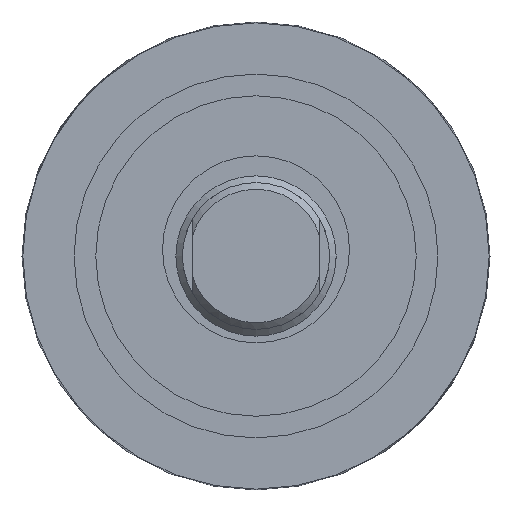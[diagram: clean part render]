
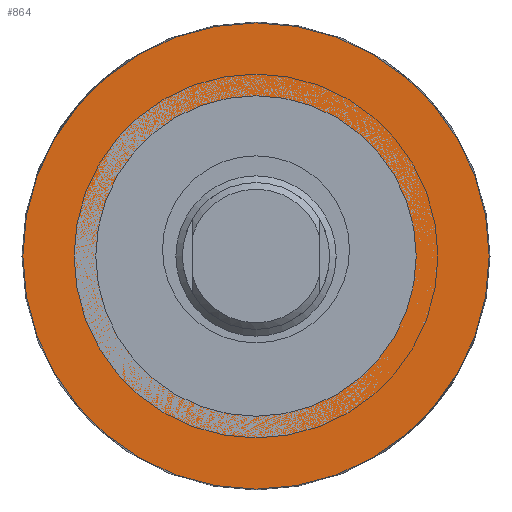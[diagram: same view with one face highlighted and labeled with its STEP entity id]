
A CAD part, left-side view. The second image highlights one B-rep face of the part: STEP entity #864.
In plain terms, the highlighted planar face has unit normal (-1, 0, 0).
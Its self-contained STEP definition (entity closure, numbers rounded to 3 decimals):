
#160=FACE_OUTER_BOUND('',#220,.T.);
#220=EDGE_LOOP('',(#633));
#283=CIRCLE('',#976,34.918);
#365=VERTEX_POINT('',#1533);
#464=EDGE_CURVE('',#365,#365,#283,.T.);
#633=ORIENTED_EDGE('',*,*,#464,.T.);
#758=PLANE('',#975);
#864=ADVANCED_FACE('',(#160),#758,.T.);
#975=AXIS2_PLACEMENT_3D('',#1532,#1179,#1180);
#976=AXIS2_PLACEMENT_3D('',#1534,#1181,#1182);
#1179=DIRECTION('center_axis',(-1.,0.,0.));
#1180=DIRECTION('ref_axis',(0.,0.,-1.));
#1181=DIRECTION('center_axis',(-1.,0.,0.));
#1182=DIRECTION('ref_axis',(0.,0.,1.));
#1532=CARTESIAN_POINT('Origin',(60.5,-31.059,0.));
#1533=CARTESIAN_POINT('',(60.5,0.,-34.918));
#1534=CARTESIAN_POINT('Origin',(60.5,0.,0.));
